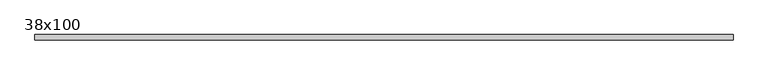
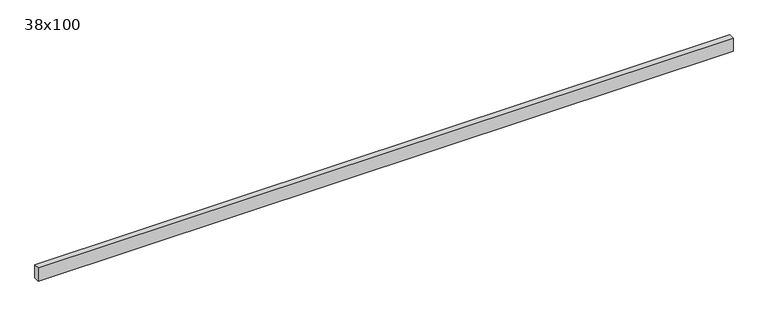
"""IFC4 building model written with IfcOpenShell, lengths in millimetres: beam geometry, Poutre - Bois de construction de dimensions courantes : 38x100."""

from ifc_helpers import new_model, si_unit, frame, origin, place, context, project, spatial, polyline, outline, extrude, source, transform, mapped, element, save


def beam_38x100_f9a19782(model_context):
    return source(origin(), model_context, "Body", "SweptSolid", [
        extrude(outline(polyline([(2455.0, 19.05), (2455.0, -19.05), (-2455.0, -19.05), (-2455.0, 19.05), (2455.0, 19.05)])), frame((0.0, 0.0, -50.0), z_axis=(0.0, 0.0, 1.0), x_axis=(1.0, 0.0, 0.0)), (0.0, 0.0, 1.0), 100.0),
    ])


if __name__ == "__main__":
    model = new_model("IFC4")
    model_context = context("Model", 3, world=origin())
    ifc_project = project(units=[si_unit("LENGTHUNIT", "METRE", prefix="MILLI")], contexts=[model_context])
    site = spatial("IfcSite", under=ifc_project)
    building = spatial("IfcBuilding", under=site)
    placement = place(None, origin())
    beam_38x100_shape = beam_38x100_f9a19782(model_context)
    element("IfcBeam", 1, ObjectType="Poutre - Bois de construction de dimensions courantes : 38x100", at=placement, inside=building, context=model_context, shape_type="MappedRepresentation", body=[
        mapped(beam_38x100_shape, transform((0.0, 0.0, 0.0), x_axis=(1.0, 0.0, 0.0), y_axis=(0.0, 1.0, 0.0), z_axis=(0.0, 0.0, 1.0))),
    ])
    save(model, "model.ifc")
